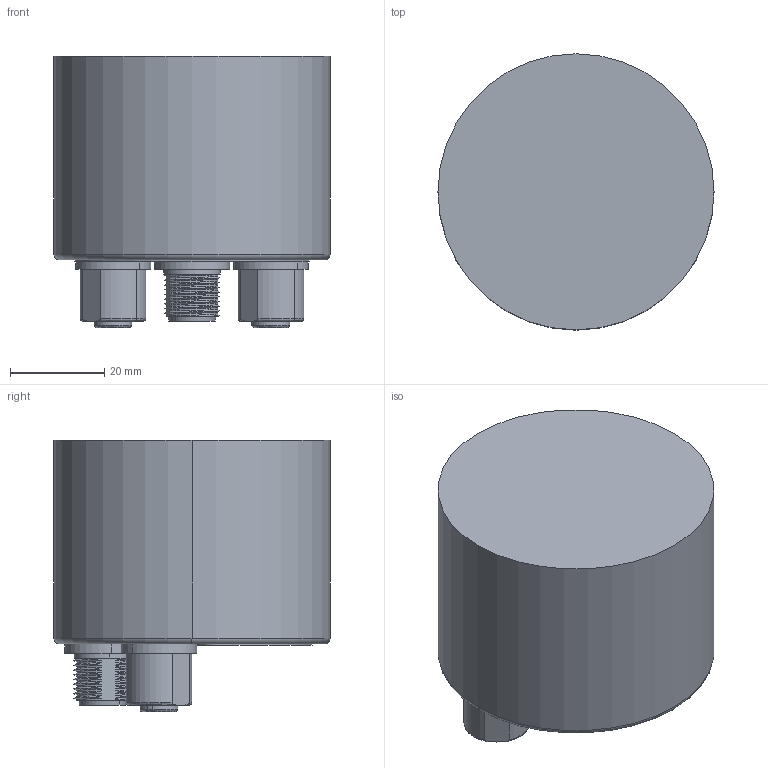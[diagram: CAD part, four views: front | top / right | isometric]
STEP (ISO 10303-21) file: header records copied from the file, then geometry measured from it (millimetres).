
FILE_DESCRIPTION (( 'STEP AP214' ), '1' );
FILE_NAME ('drawing-xc-5-ei-433-sws-eiannn-a-pam-n.STEP', '2023-04-26T08:18:33', ( '' ), ( '' ), 'SwSTEP 2.0', 'SolidWorks 2022', '' );
FILE_SCHEMA (( 'AUTOMOTIVE_DESIGN' ));
Length unit declared in the file: millimetre
Products named in the file (1): drawing-xc-5-ei-433-sws-eiannn-a-pam-n
Bounding box: 58.6 x 58.6 x 57.58 mm (x, y, z)
Volume: 120376.1 mm3; surface area: 22339.7 mm2
Topology: 4 solids, 12 shells, 1050 faces, 2900 edges, 1916 vertices
Faces by surface type: cylinder 550, plane 262, bspline 100, cone 98, torus 36, sphere 4
Entity records: 60010 total; most frequent: CARTESIAN_POINT 22787, ORIENTED_EDGE 5768, DIRECTION 5054, EDGE_CURVE 2884, AXIS2_PLACEMENT_3D 2005, VERTEX_POINT 1908, EDGE_LOOP 1136, CIRCLE 1054
